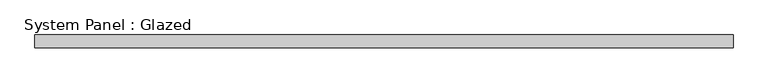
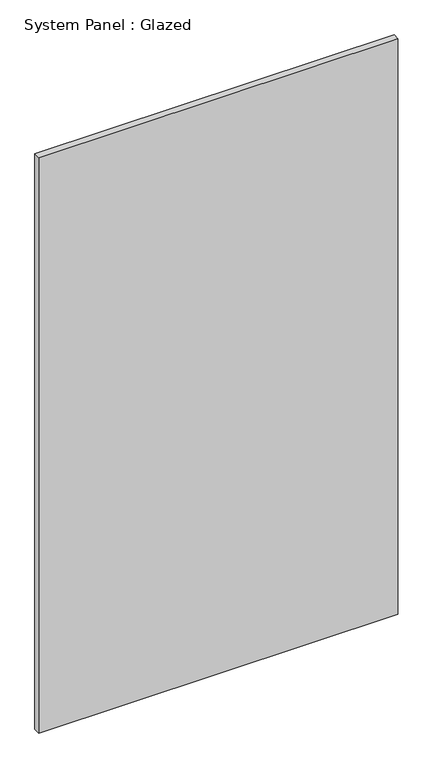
"""IFC4 building model written with IfcOpenShell, lengths in millimetres: plate geometry, System Panel : Glazed."""

from ifc_helpers import new_model, si_unit, origin, origin_with_axes, place, context, project, spatial, polyline, outline, extrude, source, transform, mapped, element, save


def system_panel_glazed_1e47d80b(model_context):
    return source(origin(), model_context, "Body", "SweptSolid", [
        extrude(outline(polyline([(686.1999999, 24.5), (-686.1999999, 24.5), (-686.1999999, 49.5), (686.1999999, 49.5), (686.1999999, 24.5)])), origin_with_axes(), (0.0, 0.0, 1.0), 2325.0),
    ])


if __name__ == "__main__":
    model = new_model("IFC4")
    model_context = context("Model", 3, world=origin())
    ifc_project = project(units=[si_unit("LENGTHUNIT", "METRE", prefix="MILLI")], contexts=[model_context])
    site = spatial("IfcSite", under=ifc_project)
    building = spatial("IfcBuilding", under=site)
    placement = place(None, origin())
    system_panel_glazed_shape = system_panel_glazed_1e47d80b(model_context)
    element("IfcPlate", 1, ObjectType="System Panel : Glazed", at=placement, inside=building, context=model_context, shape_type="MappedRepresentation", body=[
        mapped(system_panel_glazed_shape, transform((0.0, 0.0, 0.0), x_axis=(1.0, 0.0, 0.0), y_axis=(0.0, 1.0, 0.0), z_axis=(0.0, 0.0, 1.0))),
    ])
    save(model, "model.ifc")
